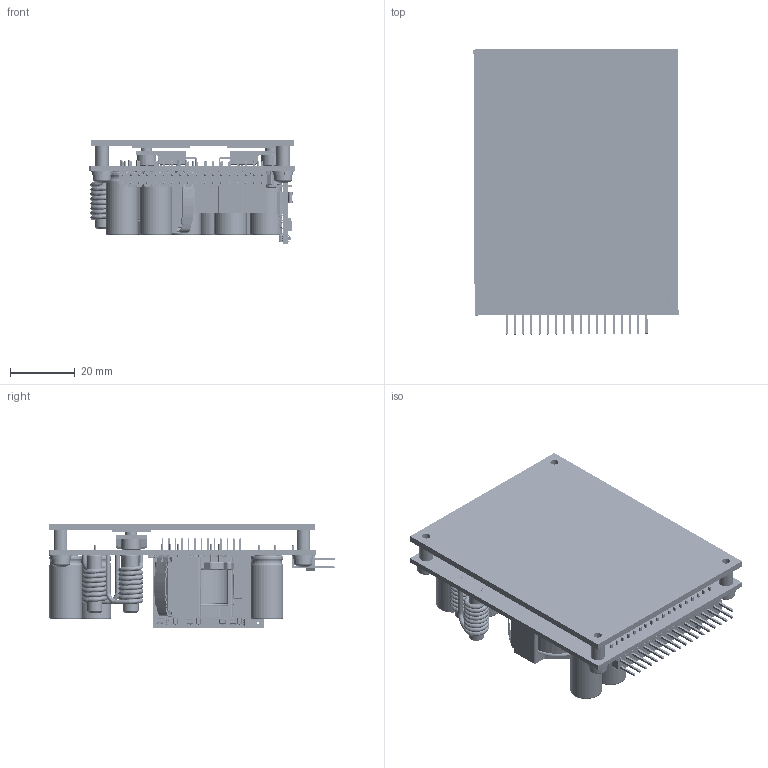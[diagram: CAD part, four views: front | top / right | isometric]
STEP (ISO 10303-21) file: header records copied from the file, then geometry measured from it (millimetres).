
FILE_DESCRIPTION(('HOOPS Exchange Step'),'2;1');
FILE_NAME('C:\Users\KimNordtorpMadsen\AppData\Local\Temp\Alibre Design\28.1.1.28227\export-2E028EE4-F041-49A4-997A-935750669AF4.stp','2025-07-09T09:13:34+02:00',('KimNordtorpMadsen'),('Alibre'),'HOOPS Exchange 2025.2','Alibre','Unknown authorisation');
FILE_SCHEMA( ('AP242_MANAGED_MODEL_BASED_3D_ENGINEERING_MIM_LF {1 0 10303 442 1 1 4}') );
Length unit declared in the file: centimetre
Products named in the file (277): PU011A; FH-M3-15ZI; pemso4-m3-8; HI_BN 5687 3061605 hexalobular socket pan head screw M3x6; _BN 760 1275178 helical spring lock washer A 3; _BN 713 1267280 flat washer 3.2; M3_6_torx_spring_washer; PU031A; PU035A; PU034A; HI_BN 131 1091573 hexagon nut M3; PU011A_ASSY_nuts_washer_iso; Open CASCADE STEP translator 7.5 1.1.1; Board; Body; ThermalPin; PinsArrayLR_2; PinsArrayLR_3; PinsArrayLR_4; PinsArrayLR_5; PinsArrayLR_6; PinsArrayLR_7; PinsArrayLR; NCP711BMT500TBG; U1; SOD323_BODY; SOD323_PIN; SOD323; D3; Open CASCADE STEP translator 6.8 1.1.1; Board_2; SOD323_BODY_2; SOD323_PIN_2; SOD323_2; D202; User_Library-sot363; T102; SW3dPS-SSOP_20; U200; BODY-SON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
Assembly tree (432 placements, depth 8):
  1ET6525SA_ASY_reduced
    PU011A_ASSY_nuts_washer_iso
      PU011A
      FH-M3-15ZI  x2
      pemso4-m3-8  x4
      M3_6_torx_spring_washer
        HI_BN 5687 3061605 hexalobular socket pan head screw M3x6
        _BN 760 1275178 helical spring lock washer A 3
        _BN 713 1267280 flat washer 3.2
      M3_6_torx_spring_washer
        HI_BN 5687 3061605 hexalobular socket pan head screw M3x6
        _BN 760 1275178 helical spring lock washer A 3
        _BN 713 1267280 flat washer 3.2
      M3_6_torx_spring_washer
        HI_BN 5687 3061605 hexalobular socket pan head screw M3x6
        _BN 760 1275178 helical spring lock washer A 3
        _BN 713 1267280 flat washer 3.2
      M3_6_torx_spring_washer
        HI_BN 5687 3061605 hexalobular socket pan head screw M3x6
        _BN 760 1275178 helical spring lock washer A 3
        _BN 713 1267280 flat washer 3.2
      PU031A  x2
      PU035A  x2
      PU034A  x2
      _BN 760 1275178 helical spring lock washer A 3  x2
      _BN 713 1267280 flat washer 3.2  x2
      HI_BN 131 1091573 hexagon nut M3  x2
    PCB
      Board
        Open CASCADE STEP translator 7.5 1.1.1
      U1
        NCP711BMT500TBG
          Body
          ThermalPin
          PinsArrayLR
            PinsArrayLR_2
            PinsArrayLR_3
            PinsArrayLR_4
            PinsArrayLR_5
            PinsArrayLR_6
            PinsArrayLR_7
      D3
        SOD323
          SOD323_BODY
          SOD323_PIN  x2
      PCB1
        PCB027A PCB
          Board_2
            Open CASCADE STEP translator 6.8 1.1.1
          D202
            SOD323_2
              SOD323_BODY_2
              SOD323_PIN_2  x2
          T102
            User_Library-sot363
          U200
            SW3dPS-SSOP_20
          U103
            DQA0010A
              BODY-SON
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Bounding box: 63.36 x 88.21 x 32.34 mm (x, y, z)
Volume: 49368.6 mm3; surface area: 54900.6 mm2
Topology: 314 solids, 368 shells, 7254 faces, 17929 edges, 11228 vertices
Faces by surface type: plane 4286, cylinder 2182, sphere 384, torus 200, cone 124, bspline 78
Full cylindrical faces by diameter (mm): 2.5 x4, 3.2 x12, 3.6 x2, 4.2 x4, 6 x4
Entity records: 140753 total; most frequent: CARTESIAN_POINT 28648, DIRECTION 20440, ORIENTED_EDGE 19594, EDGE_CURVE 10059, VECTOR 7028, LINE 7028, AXIS2_PLACEMENT_3D 6706, VERTEX_POINT 6413
